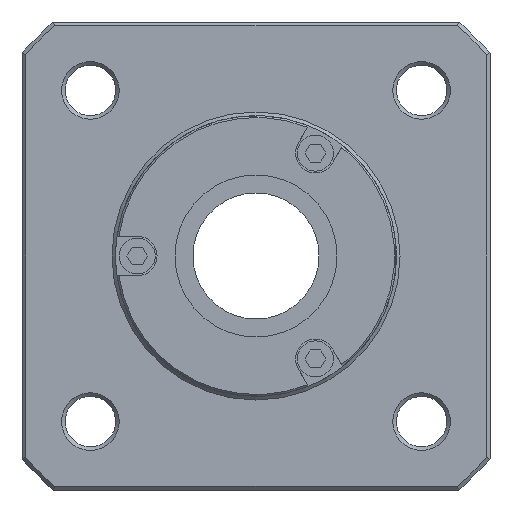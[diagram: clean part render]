
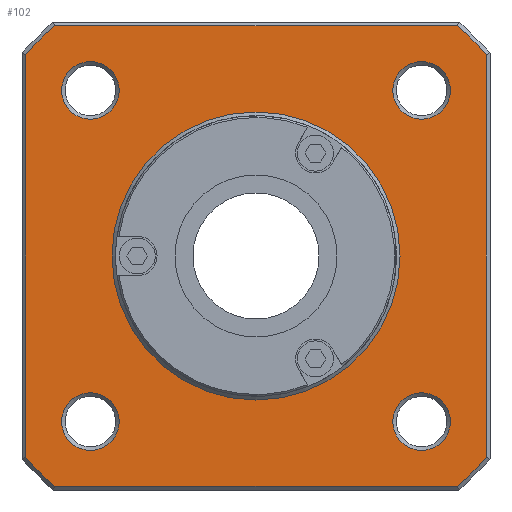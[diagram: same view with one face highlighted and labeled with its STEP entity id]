
A CAD part, left-side view. The second image highlights one B-rep face of the part: STEP entity #102.
In plain terms, the highlighted planar face has unit normal (-1, 0, 0).
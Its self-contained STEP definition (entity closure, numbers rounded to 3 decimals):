
#102=ADVANCED_FACE('',(#319,#320,#321,#322,#323,#324),#325,.T.);
#319=FACE_BOUND('',#749,.T.);
#320=FACE_BOUND('',#750,.T.);
#321=FACE_BOUND('',#751,.T.);
#322=FACE_BOUND('',#752,.T.);
#323=FACE_OUTER_BOUND('',#753,.T.);
#324=FACE_BOUND('',#754,.T.);
#325=PLANE('',#755);
#749=EDGE_LOOP('',(#1296));
#750=EDGE_LOOP('',(#1297));
#751=EDGE_LOOP('',(#1298));
#752=EDGE_LOOP('',(#1299));
#753=EDGE_LOOP('',(#1300,#1301,#1302,#1303,#1304,#1305,#1306,#1307));
#754=EDGE_LOOP('',(#1308));
#755=AXIS2_PLACEMENT_3D('',#1309,#1310,#1311);
#1296=ORIENTED_EDGE('',*,*,#2489,.T.);
#1297=ORIENTED_EDGE('',*,*,#2490,.T.);
#1298=ORIENTED_EDGE('',*,*,#2491,.T.);
#1299=ORIENTED_EDGE('',*,*,#2492,.T.);
#1300=ORIENTED_EDGE('',*,*,#2468,.T.);
#1301=ORIENTED_EDGE('',*,*,#2465,.T.);
#1302=ORIENTED_EDGE('',*,*,#2493,.T.);
#1303=ORIENTED_EDGE('',*,*,#2494,.T.);
#1304=ORIENTED_EDGE('',*,*,#2495,.T.);
#1305=ORIENTED_EDGE('',*,*,#2496,.T.);
#1306=ORIENTED_EDGE('',*,*,#2474,.T.);
#1307=ORIENTED_EDGE('',*,*,#2471,.T.);
#1308=ORIENTED_EDGE('',*,*,#2497,.F.);
#1309=CARTESIAN_POINT('',(4.0,40.0,0.0));
#1310=DIRECTION('',(-1.0,0.0,0.0));
#1311=DIRECTION('',(0.0,0.0,1.0));
#2465=EDGE_CURVE('',#2888,#2893,#2895,.T.);
#2468=EDGE_CURVE('',#2896,#2888,#2900,.T.);
#2471=EDGE_CURVE('',#2901,#2896,#2905,.T.);
#2474=EDGE_CURVE('',#2906,#2901,#2910,.T.);
#2489=EDGE_CURVE('',#2939,#2939,#2940,.F.);
#2490=EDGE_CURVE('',#2941,#2941,#2942,.F.);
#2491=EDGE_CURVE('',#2943,#2943,#2944,.F.);
#2492=EDGE_CURVE('',#2945,#2945,#2946,.F.);
#2493=EDGE_CURVE('',#2893,#2947,#2948,.T.);
#2494=EDGE_CURVE('',#2947,#2949,#2950,.T.);
#2495=EDGE_CURVE('',#2949,#2951,#2952,.T.);
#2496=EDGE_CURVE('',#2951,#2906,#2953,.T.);
#2497=EDGE_CURVE('',#2954,#2954,#2955,.T.);
#2888=VERTEX_POINT('',#3604);
#2893=VERTEX_POINT('',#3613);
#2895=LINE('',#3618,#3619);
#2896=VERTEX_POINT('',#3620);
#2900=CIRCLE('',#3627,85.0);
#2901=VERTEX_POINT('',#3628);
#2905=LINE('',#3636,#3637);
#2906=VERTEX_POINT('',#3638);
#2910=CIRCLE('',#3645,85.0);
#2939=VERTEX_POINT('',#3701);
#2940=CIRCLE('',#3702,8.0);
#2941=VERTEX_POINT('',#3703);
#2942=CIRCLE('',#3704,8.0);
#2943=VERTEX_POINT('',#3705);
#2944=CIRCLE('',#3706,8.0);
#2945=VERTEX_POINT('',#3707);
#2946=CIRCLE('',#3708,8.0);
#2947=VERTEX_POINT('',#3709);
#2948=CIRCLE('',#3710,85.0);
#2949=VERTEX_POINT('',#3711);
#2950=LINE('',#3712,#3713);
#2951=VERTEX_POINT('',#3714);
#2952=CIRCLE('',#3715,85.0);
#2953=LINE('',#3716,#3717);
#2954=VERTEX_POINT('',#3718);
#2955=CIRCLE('',#3719,40.0);
#3604=CARTESIAN_POINT('',(4.0,55.937,-64.0));
#3613=CARTESIAN_POINT('',(4.0,-55.937,-64.0));
#3618=CARTESIAN_POINT('',(4.0,40.0,-64.0));
#3619=VECTOR('',#4711,1.0);
#3620=CARTESIAN_POINT('',(4.0,64.0,-55.937));
#3627=AXIS2_PLACEMENT_3D('',#4715,#4716,#4717);
#3628=CARTESIAN_POINT('',(4.0,64.0,55.937));
#3636=CARTESIAN_POINT('',(4.0,64.0,0.0));
#3637=VECTOR('',#4719,1.0);
#3638=CARTESIAN_POINT('',(4.0,55.937,64.0));
#3645=AXIS2_PLACEMENT_3D('',#4723,#4724,#4725);
#3701=CARTESIAN_POINT('',(4.0,46.0,54.0));
#3702=AXIS2_PLACEMENT_3D('',#4765,#4766,#4767);
#3703=CARTESIAN_POINT('',(4.0,-46.0,54.0));
#3704=AXIS2_PLACEMENT_3D('',#4768,#4769,#4770);
#3705=CARTESIAN_POINT('',(4.0,46.0,-38.0));
#3706=AXIS2_PLACEMENT_3D('',#4771,#4772,#4773);
#3707=CARTESIAN_POINT('',(4.0,-46.0,-38.0));
#3708=AXIS2_PLACEMENT_3D('',#4774,#4775,#4776);
#3709=CARTESIAN_POINT('',(4.0,-64.0,-55.937));
#3710=AXIS2_PLACEMENT_3D('',#4777,#4778,#4779);
#3711=CARTESIAN_POINT('',(4.0,-64.0,55.937));
#3712=CARTESIAN_POINT('',(4.0,-64.0,0.0));
#3713=VECTOR('',#4780,1.0);
#3714=CARTESIAN_POINT('',(4.0,-55.937,64.0));
#3715=AXIS2_PLACEMENT_3D('',#4781,#4782,#4783);
#3716=CARTESIAN_POINT('',(4.0,40.0,64.0));
#3717=VECTOR('',#4784,1.0);
#3718=CARTESIAN_POINT('',(4.0,0.0,40.0));
#3719=AXIS2_PLACEMENT_3D('',#4785,#4786,#4787);
#4711=DIRECTION('',(0.0,-1.0,0.0));
#4715=CARTESIAN_POINT('',(4.0,0.0,0.0));
#4716=DIRECTION('',(-1.0,0.0,0.0));
#4717=DIRECTION('',(0.0,0.0,1.0));
#4719=DIRECTION('',(0.0,0.0,-1.0));
#4723=CARTESIAN_POINT('',(4.0,0.0,0.0));
#4724=DIRECTION('',(-1.0,0.0,0.0));
#4725=DIRECTION('',(0.0,0.0,1.0));
#4765=CARTESIAN_POINT('',(4.0,46.0,46.0));
#4766=DIRECTION('',(-1.0,0.0,0.0));
#4767=DIRECTION('',(0.0,0.0,1.0));
#4768=CARTESIAN_POINT('',(4.0,-46.0,46.0));
#4769=DIRECTION('',(-1.0,0.0,0.0));
#4770=DIRECTION('',(0.0,0.0,1.0));
#4771=CARTESIAN_POINT('',(4.0,46.0,-46.0));
#4772=DIRECTION('',(-1.0,0.0,0.0));
#4773=DIRECTION('',(0.0,0.0,1.0));
#4774=CARTESIAN_POINT('',(4.0,-46.0,-46.0));
#4775=DIRECTION('',(-1.0,0.0,0.0));
#4776=DIRECTION('',(0.0,0.0,1.0));
#4777=CARTESIAN_POINT('',(4.0,0.0,0.0));
#4778=DIRECTION('',(-1.0,0.0,0.0));
#4779=DIRECTION('',(0.0,0.0,1.0));
#4780=DIRECTION('',(0.0,0.0,1.0));
#4781=CARTESIAN_POINT('',(4.0,0.0,0.0));
#4782=DIRECTION('',(-1.0,0.0,0.0));
#4783=DIRECTION('',(0.0,0.0,1.0));
#4784=DIRECTION('',(0.0,1.0,0.0));
#4785=CARTESIAN_POINT('',(4.0,0.0,0.0));
#4786=DIRECTION('',(-1.0,0.0,0.0));
#4787=DIRECTION('',(0.0,0.0,1.0));
